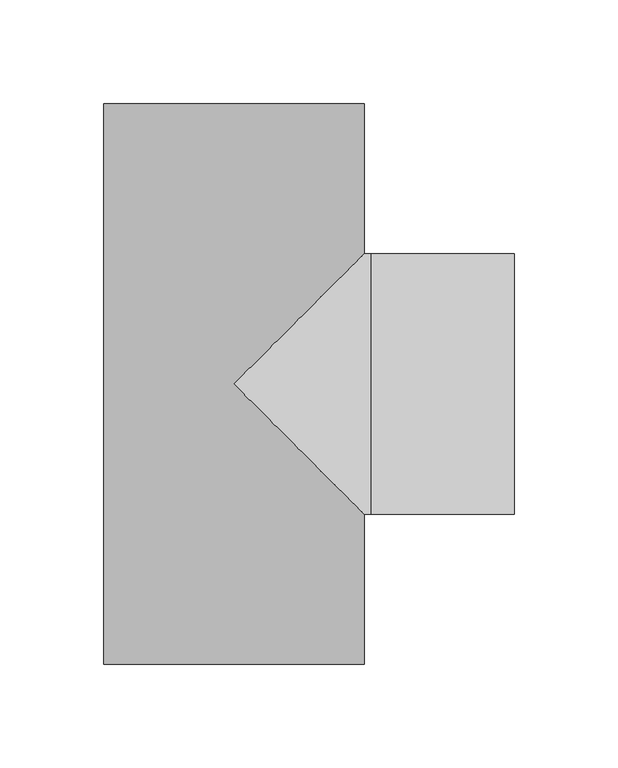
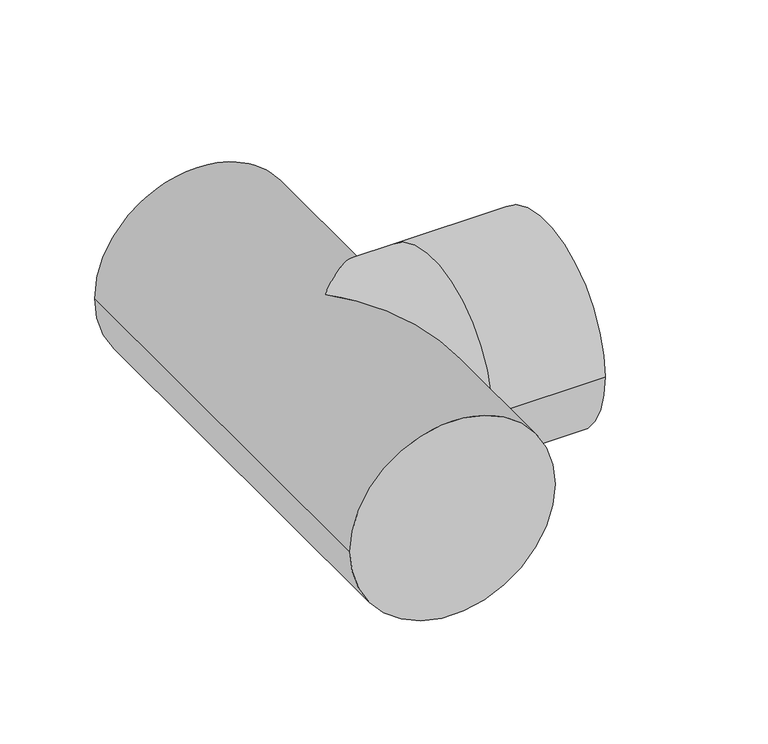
"""IFC4 building model written with IfcOpenShell, lengths in millimetres: pipe fitting geometry, 01051003 : Tés à 90º."""

from ifc_helpers import new_model, si_unit, frame, origin, place, context, project, spatial, circle_curve, ellipse_curve, source, transform, mapped, element, save
from ifc_brep_helpers import plane_surface, cylinder_surface, advanced_brep


def pipe_fitting_2818d6a7(model_context):
    return source(origin(), model_context, "Body", "AdvancedBrep", [
        advanced_brep(
        [(-62.7, 135.0, 0.0), (62.7, 135.0, 0.0), (-62.7, -135.0, 0.0), (62.7, -135.0, 0.0), (62.7, -62.7, 0.0), (0.0, 0.0, 62.7), (62.7, 62.7, 0.0), (0.0, 0.0, -62.7), (135.0, 62.7, 0.0), (135.0, -62.7, 0.0), (66.0, -62.7, 0.0), (66.0, 62.7, 0.0)],
        [
            (0, 1, circle_curve(frame((0.0, 135.0, 0.0), z_axis=(0.0, 1.0, 0.0), x_axis=(1.0, 0.0, 0.0)), 62.7)),
            (1, 0, circle_curve(frame((0.0, 135.0, 0.0), z_axis=(0.0, 1.0, 0.0), x_axis=(1.0, 0.0, 0.0)), 62.7)),
            (2, 3, circle_curve(frame((0.0, -135.0, 0.0), z_axis=(0.0, -1.0, 0.0), x_axis=(1.0, 0.0, 0.0)), 62.7)),
            (3, 2, circle_curve(frame((0.0, -135.0, 0.0), z_axis=(0.0, -1.0, 0.0), x_axis=(1.0, 0.0, 0.0)), 62.7)),
            (0, 2),
            (3, 4),
            (4, 5, ellipse_curve(frame((0.0, 0.0, 0.0), z_axis=(-0.7071067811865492, -0.7071067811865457, 0.0), x_axis=(-0.7071067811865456, 0.7071067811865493, 0.0)), 88.6711904, 62.7)),
            (5, 6, ellipse_curve(frame((0.0, 0.0, 0.0), z_axis=(-0.7071067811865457, 0.7071067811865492, 0.0), x_axis=(0.7071067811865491, 0.7071067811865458, 0.0)), 88.6711904, 62.7)),
            (6, 1),
            (6, 7, ellipse_curve(frame((0.0, 0.0, 0.0), z_axis=(-0.7071067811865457, 0.7071067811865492, 0.0), x_axis=(0.7071067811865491, 0.7071067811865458, 0.0)), 88.6711904, 62.7)),
            (7, 4, ellipse_curve(frame((0.0, 0.0, 0.0), z_axis=(-0.7071067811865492, -0.7071067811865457, 0.0), x_axis=(-0.7071067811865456, 0.7071067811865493, 0.0)), 88.6711904, 62.7)),
            (8, 9, circle_curve(frame((135.0, 0.0, 0.0), z_axis=(1.0, 0.0, 0.0), x_axis=(0.0, -1.0, 0.0)), 62.7)),
            (9, 8, circle_curve(frame((135.0, 0.0, 0.0), z_axis=(1.0, 0.0, 0.0), x_axis=(0.0, -1.0, 0.0)), 62.7)),
            (10, 11, circle_curve(frame((66.0, 0.0, 0.0), z_axis=(-1.0, 0.0, 0.0), x_axis=(0.0, -1.0, 0.0)), 62.7)),
            (11, 6),
            (4, 10),
            (11, 10, circle_curve(frame((66.0, 0.0, 0.0), z_axis=(-1.0, 0.0, 0.0), x_axis=(0.0, -1.0, 0.0)), 62.7)),
            (8, 11),
            (10, 9),
        ],
        [
            plane_surface(frame((0.0, 135.0, 0.0), z_axis=(0.0, 1.0, 0.0), x_axis=(0.0, 0.0, 1.0))),
            plane_surface(frame((0.0, -135.0, 0.0), z_axis=(0.0, -1.0, 0.0), x_axis=(0.0, 0.0, 1.0))),
            cylinder_surface(frame((0.0, 135.0, 0.0), z_axis=(0.0, 1.0, 0.0), x_axis=(1.0, 0.0, 0.0)), 62.7),
            plane_surface(frame((135.0, 0.0, 0.0), z_axis=(1.0, 0.0, 0.0), x_axis=(0.0, 0.0, 1.0))),
            cylinder_surface(frame((66.0, 0.0, 0.0), z_axis=(1.0, 0.0, 0.0), x_axis=(0.0, -1.0, 0.0)), 62.7),
            cylinder_surface(frame((135.0, 0.0, 0.0), z_axis=(1.0, 0.0, 0.0), x_axis=(0.0, -1.0, 0.0)), 62.7),
        ],
        [
            (0, [[1, 2]]),
            (1, [[3, 4]]),
            (2, [[-1, 5, -4, 6, 7, 8, 9]]),
            (2, [[-2, -9, 10, 11, -6, -3, -5]]),
            (3, [[12, 13]]),
            (4, [[14, 15, -8, -7, 16]]),
            (4, [[17, -16, -11, -10, -15]]),
            (5, [[-12, 18, -14, 19]]),
            (5, [[-13, -19, -17, -18]]),
        ],
    ),
    ])


if __name__ == "__main__":
    model = new_model("IFC4")
    model_context = context("Model", 3, world=origin())
    ifc_project = project(units=[si_unit("LENGTHUNIT", "METRE", prefix="MILLI")], contexts=[model_context])
    site = spatial("IfcSite", under=ifc_project)
    building = spatial("IfcBuilding", under=site)
    placement = place(None, origin())
    pipe_fitting_shape = pipe_fitting_2818d6a7(model_context)
    element("IfcPipeFitting", 1, ObjectType="01051003 : Tés à 90º", at=placement, inside=building, context=model_context, shape_type="MappedRepresentation", body=[
        mapped(pipe_fitting_shape, transform((0.0, 0.0, 0.0), x_axis=(1.0, 0.0, 0.0), y_axis=(0.0, 1.0, 0.0), z_axis=(0.0, 0.0, 1.0))),
    ])
    save(model, "model.ifc")
